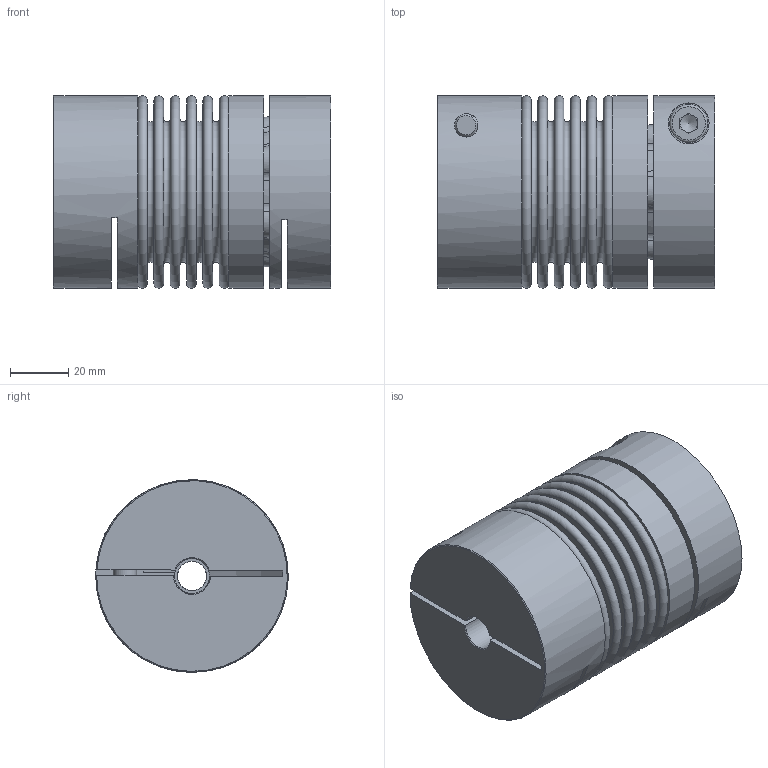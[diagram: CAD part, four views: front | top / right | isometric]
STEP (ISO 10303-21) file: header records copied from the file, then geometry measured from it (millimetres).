
FILE_DESCRIPTION( ( 'Unknown' ), '1' );
FILE_NAME( 'C:/Users/skarpstein/Desktop/KB4P/KB4P/KB4P-60-95.stp', 'Unknown', ( 'Unknown' ), ( 'Unknown' ), 'PSStep 16.0.42', 'Unknown', ' ' );
FILE_SCHEMA( ( 'AUTOMOTIVE_DESIGN { 1 0 10303 214 1 1 1 1 }' ) );
Length unit declared in the file: millimetre
Products named in the file (6): Assem1; KN60_Standard_1; Socket Head Cap Screw_DIN_DIN 912 M8 x 25 --- 25C; Stecknabe KB4P-60; Balgaufnahme KB4P-60; BL60_Standard_0
Assembly tree (6 placements, depth 2):
  Assem1
    KN60_Standard_1
    Socket Head Cap Screw_DIN_DIN 912 M8 x 25 --- 25C  x2
    Stecknabe KB4P-60
    Balgaufnahme KB4P-60
    BL60_Standard_0
Bounding box: 95.3 x 66 x 66 mm (x, y, z)
Volume: 208541.1 mm3; surface area: 95333.6 mm2
Topology: 6 solids, 6 shells, 186 faces, 424 edges, 277 vertices
Faces by surface type: plane 78, cone 55, torus 28, cylinder 25
Full cylindrical faces by diameter (mm): 6.647 x1, 8 x3, 8.5 x2, 10 x1, 12 x1, 13 x2, 14 x2, 56.3 x2, 57.3 x2, 66 x3
Entity records: 6274 total; most frequent: CARTESIAN_POINT 1086, DIRECTION 862, ORIENTED_EDGE 650, AXIS2_PLACEMENT_3D 376, EDGE_CURVE 325, VERTEX_POINT 254, EDGE_LOOP 252, FACE_OUTER_BOUND 208
